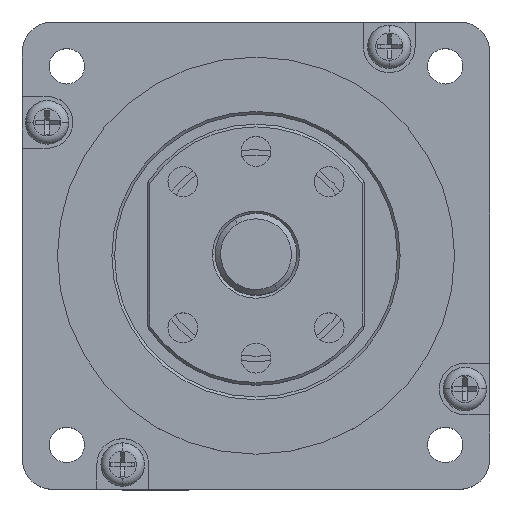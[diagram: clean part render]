
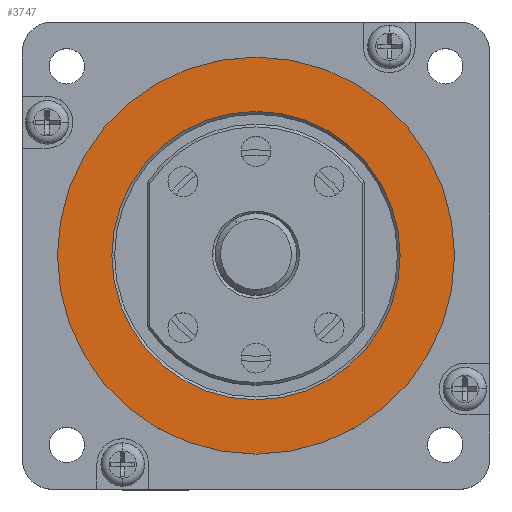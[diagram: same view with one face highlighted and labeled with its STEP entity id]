
A CAD part, top view. The second image highlights one B-rep face of the part: STEP entity #3747.
In plain terms, the highlighted planar face has unit normal (0, 0, 1).
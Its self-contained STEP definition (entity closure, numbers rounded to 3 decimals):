
#155 = VERTEX_POINT ( 'NONE', #335 ) ;
#318 = VERTEX_POINT ( 'NONE', #321 ) ;
#321 = CARTESIAN_POINT ( 'NONE',  ( 26.5, 0., 30.952 ) ) ;
#324 = VERTEX_POINT ( 'NONE', #736 ) ;
#335 = CARTESIAN_POINT ( 'NONE',  ( 36.5, 0., 30.952 ) ) ;
#730 = ORIENTED_EDGE ( 'NONE', *, *, #11808, .T. ) ;
#736 = CARTESIAN_POINT ( 'NONE',  ( -36.5, 0., 30.952 ) ) ;
#750 = ORIENTED_EDGE ( 'NONE', *, *, #11834, .F. ) ;
#770 = ORIENTED_EDGE ( 'NONE', *, *, #12149, .T. ) ;
#1036 = ORIENTED_EDGE ( 'NONE', *, *, #12036, .F. ) ;
#1189 = PLANE ( 'NONE',  #11574 ) ;
#1444 = DIRECTION ( 'NONE',  ( -1., 0., 0. ) ) ;
#1704 = CARTESIAN_POINT ( 'NONE',  ( -26.5, 0., 30.952 ) ) ;
#1912 = CARTESIAN_POINT ( 'NONE',  ( 0., 0., 30.952 ) ) ;
#1965 = DIRECTION ( 'NONE',  ( 0., 0., -1. ) ) ;
#2346 = DIRECTION ( 'NONE',  ( 0., 0., -1. ) ) ;
#2827 = CARTESIAN_POINT ( 'NONE',  ( 0., 0., 30.952 ) ) ;
#2921 = DIRECTION ( 'NONE',  ( -1., 0., 0. ) ) ;
#3747 = ADVANCED_FACE ( 'NONE', ( #11690, #11399 ), #1189, .F. ) ;
#4433 = VERTEX_POINT ( 'NONE', #1704 ) ;
#5036 = DIRECTION ( 'NONE',  ( -1., 0., 0. ) ) ;
#5092 = DIRECTION ( 'NONE',  ( 0., 0., -1. ) ) ;
#5272 = DIRECTION ( 'NONE',  ( 0., 0., -1. ) ) ;
#5274 = CARTESIAN_POINT ( 'NONE',  ( 0., 0., 30.952 ) ) ;
#5330 = CARTESIAN_POINT ( 'NONE',  ( 0., 0., 30.952 ) ) ;
#5398 = DIRECTION ( 'NONE',  ( -1., 0., 0. ) ) ;
#5566 = CARTESIAN_POINT ( 'NONE',  ( 0., 0., 30.952 ) ) ;
#5567 = DIRECTION ( 'NONE',  ( 0., 0., -1. ) ) ;
#5568 = DIRECTION ( 'NONE',  ( -1., 0., 0. ) ) ;
#7880 = EDGE_LOOP ( 'NONE', ( #750, #1036 ) ) ;
#7903 = EDGE_LOOP ( 'NONE', ( #770, #730 ) ) ;
#8530 = CIRCLE ( 'NONE', #10181, 26.5 ) ;
#10102 = AXIS2_PLACEMENT_3D ( 'NONE', #5566, #5567, #5568 ) ;
#10181 = AXIS2_PLACEMENT_3D ( 'NONE', #2827, #2346, #2921 ) ;
#11372 = AXIS2_PLACEMENT_3D ( 'NONE', #5274, #5272, #5036 ) ;
#11399 = FACE_OUTER_BOUND ( 'NONE', #7880, .T. ) ;
#11502 = AXIS2_PLACEMENT_3D ( 'NONE', #5330, #5092, #5398 ) ;
#11574 = AXIS2_PLACEMENT_3D ( 'NONE', #1912, #1965, #1444 ) ;
#11690 = FACE_BOUND ( 'NONE', #7903, .T. ) ;
#11808 = EDGE_CURVE ( 'NONE', #4433, #318, #12428, .T. ) ;
#11834 = EDGE_CURVE ( 'NONE', #155, #324, #11920, .T. ) ;
#11920 = CIRCLE ( 'NONE', #11502, 36.5 ) ;
#12036 = EDGE_CURVE ( 'NONE', #324, #155, #12296, .T. ) ;
#12149 = EDGE_CURVE ( 'NONE', #318, #4433, #8530, .T. ) ;
#12296 = CIRCLE ( 'NONE', #10102, 36.5 ) ;
#12428 = CIRCLE ( 'NONE', #11372, 26.5 ) ;
